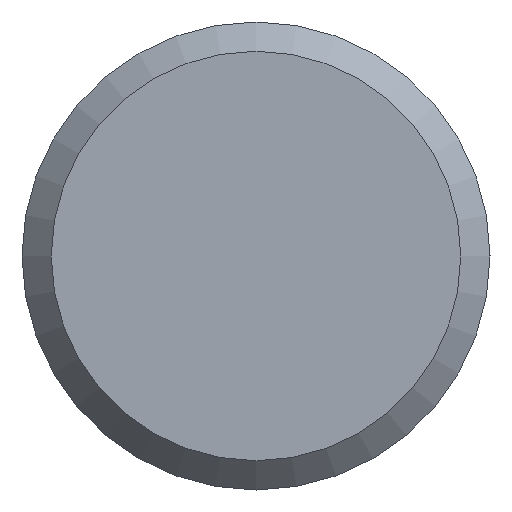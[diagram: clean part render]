
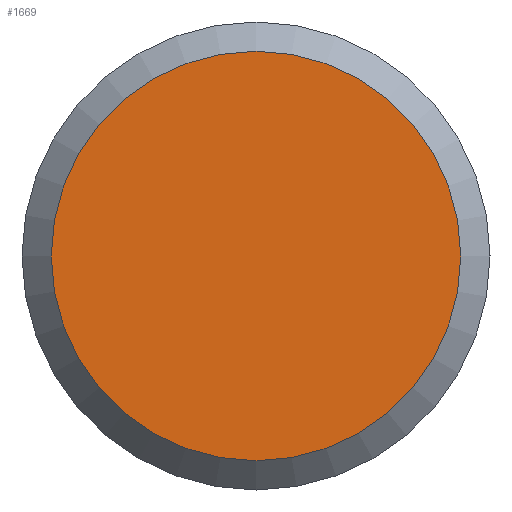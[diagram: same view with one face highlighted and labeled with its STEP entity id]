
A CAD part, left-side view. The second image highlights one B-rep face of the part: STEP entity #1669.
In plain terms, the highlighted planar face has unit normal (-1, 0, 0).
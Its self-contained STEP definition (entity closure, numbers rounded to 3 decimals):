
#594=PLANE('',#1535);
#636=ORIENTED_EDGE('',*,*,#848,.F.);
#738=CIRCLE('',#1534,7.);
#793=VERTEX_POINT('',#1370);
#848=EDGE_CURVE('',#793,#793,#738,.T.);
#911=EDGE_LOOP('',(#636));
#1021=FACE_BOUND('',#911,.T.);
#1146=DIRECTION('',(1.,0.,0.));
#1147=DIRECTION('',(0.,-7.,0.));
#1148=DIRECTION('',(-1.,0.,0.));
#1149=DIRECTION('',(0.,1.,0.));
#1370=CARTESIAN_POINT('',(0.,-7.,0.));
#1371=CARTESIAN_POINT('',(0.,0.,0.));
#1372=CARTESIAN_POINT('',(0.,0.,0.));
#1534=AXIS2_PLACEMENT_3D('',#1371,#1146,#1147);
#1535=AXIS2_PLACEMENT_3D('',#1372,#1148,#1149);
#1669=ADVANCED_FACE('',(#1021),#594,.T.);
